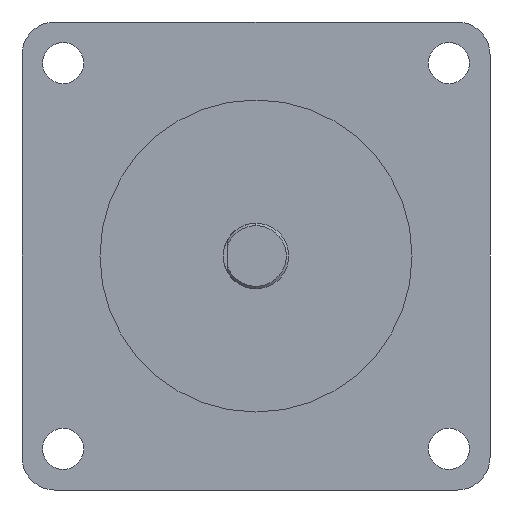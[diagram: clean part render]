
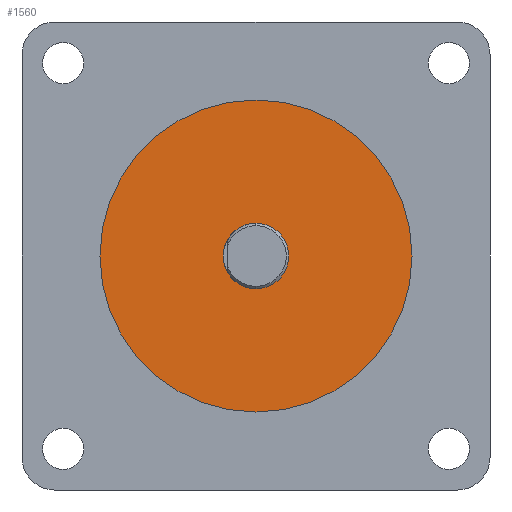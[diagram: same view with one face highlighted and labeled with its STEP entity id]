
A CAD part, left-side view. The second image highlights one B-rep face of the part: STEP entity #1560.
In plain terms, the highlighted planar face has unit normal (-1, 0, 0).
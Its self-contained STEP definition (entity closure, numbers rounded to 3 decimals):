
#206 = AXIS2_PLACEMENT_3D ( 'NONE', #2574, #2225, #1868 ) ;
#214 = FACE_BOUND ( 'NONE', #1661, .T. ) ;
#427 = CARTESIAN_POINT ( 'NONE',  ( -1.5, 0., -19.05 ) ) ;
#435 = AXIS2_PLACEMENT_3D ( 'NONE', #2560, #2213, #1856 ) ;
#551 = CARTESIAN_POINT ( 'NONE',  ( -1.5, 0., 0. ) ) ;
#631 = DIRECTION ( 'NONE',  ( 0., 0., 1. ) ) ;
#749 = DIRECTION ( 'NONE',  ( 0., 0., 1. ) ) ;
#987 = DIRECTION ( 'NONE',  ( -1., 0., 0. ) ) ;
#1001 = EDGE_CURVE ( 'NONE', #1068, #1416, #1059, .T. ) ;
#1059 = CIRCLE ( 'NONE', #1455, 19.05 ) ;
#1068 = VERTEX_POINT ( 'NONE', #2022 ) ;
#1107 = DIRECTION ( 'NONE',  ( -1., 0., 0. ) ) ;
#1119 = EDGE_CURVE ( 'NONE', #1416, #1068, #1326, .T. ) ;
#1128 = CIRCLE ( 'NONE', #1442, 4. ) ;
#1316 = VERTEX_POINT ( 'NONE', #3151 ) ;
#1326 = CIRCLE ( 'NONE', #435, 19.05 ) ;
#1342 = CARTESIAN_POINT ( 'NONE',  ( -1.5, 0., 0. ) ) ;
#1416 = VERTEX_POINT ( 'NONE', #427 ) ;
#1442 = AXIS2_PLACEMENT_3D ( 'NONE', #2506, #1107, #749 ) ;
#1455 = AXIS2_PLACEMENT_3D ( 'NONE', #551, #1874, #1530 ) ;
#1530 = DIRECTION ( 'NONE',  ( 0., 0., 1. ) ) ;
#1560 = ADVANCED_FACE ( 'NONE', ( #2946, #214 ), #3462, .T. ) ;
#1588 = ORIENTED_EDGE ( 'NONE', *, *, #1119, .T. ) ;
#1641 = CIRCLE ( 'NONE', #206, 4. ) ;
#1661 = EDGE_LOOP ( 'NONE', ( #2278, #2134 ) ) ;
#1856 = DIRECTION ( 'NONE',  ( 0., 0., 1. ) ) ;
#1868 = DIRECTION ( 'NONE',  ( 0., 0., 1. ) ) ;
#1874 = DIRECTION ( 'NONE',  ( -1., 0., 0. ) ) ;
#1975 = AXIS2_PLACEMENT_3D ( 'NONE', #1342, #987, #631 ) ;
#2022 = CARTESIAN_POINT ( 'NONE',  ( -1.5, 0., 19.05 ) ) ;
#2134 = ORIENTED_EDGE ( 'NONE', *, *, #2784, .F. ) ;
#2209 = EDGE_LOOP ( 'NONE', ( #1588, #2733 ) ) ;
#2213 = DIRECTION ( 'NONE',  ( -1., 0., 0. ) ) ;
#2225 = DIRECTION ( 'NONE',  ( -1., 0., 0. ) ) ;
#2278 = ORIENTED_EDGE ( 'NONE', *, *, #2384, .F. ) ;
#2384 = EDGE_CURVE ( 'NONE', #1316, #2712, #1641, .T. ) ;
#2506 = CARTESIAN_POINT ( 'NONE',  ( -1.5, 0., 0. ) ) ;
#2560 = CARTESIAN_POINT ( 'NONE',  ( -1.5, 0., 0. ) ) ;
#2574 = CARTESIAN_POINT ( 'NONE',  ( -1.5, 0., 0. ) ) ;
#2667 = CARTESIAN_POINT ( 'NONE',  ( -1.5, 0., 4. ) ) ;
#2712 = VERTEX_POINT ( 'NONE', #2667 ) ;
#2733 = ORIENTED_EDGE ( 'NONE', *, *, #1001, .T. ) ;
#2784 = EDGE_CURVE ( 'NONE', #2712, #1316, #1128, .T. ) ;
#2946 = FACE_OUTER_BOUND ( 'NONE', #2209, .T. ) ;
#3151 = CARTESIAN_POINT ( 'NONE',  ( -1.5, 0., -4. ) ) ;
#3462 = PLANE ( 'NONE',  #1975 ) ;
